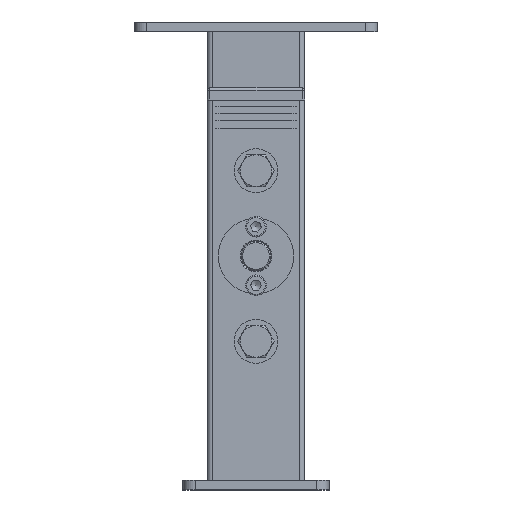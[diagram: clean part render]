
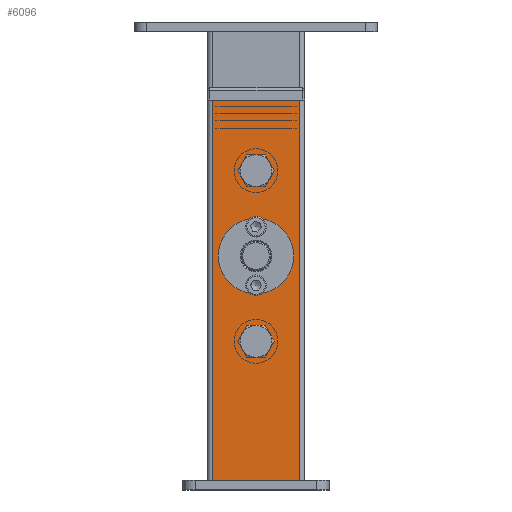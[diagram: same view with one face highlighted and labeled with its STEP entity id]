
A CAD part, left-side view. The second image highlights one B-rep face of the part: STEP entity #6096.
In plain terms, the highlighted planar face has unit normal (-1, 0, 0) as drawn and (1, 0, 0) by its records, which use the part's own axes.
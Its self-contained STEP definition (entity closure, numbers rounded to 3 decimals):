
#468=FACE_BOUND('',#1115,.T.);
#469=FACE_BOUND('',#1116,.T.);
#470=FACE_BOUND('',#1117,.T.);
#471=FACE_BOUND('',#1118,.T.);
#472=FACE_BOUND('',#1119,.T.);
#550=PLANE('',#6879);
#758=FACE_OUTER_BOUND('',#1114,.T.);
#1114=EDGE_LOOP('',(#4361,#4362,#4363,#4364));
#1115=EDGE_LOOP('',(#4365,#4366));
#1116=EDGE_LOOP('',(#4367,#4368));
#1117=EDGE_LOOP('',(#4369));
#1118=EDGE_LOOP('',(#4370));
#1119=EDGE_LOOP('',(#4371));
#1539=LINE('',#9552,#2028);
#1544=LINE('',#9564,#2033);
#1545=LINE('',#9568,#2034);
#1546=LINE('',#9569,#2035);
#2028=VECTOR('',#7678,10.);
#2033=VECTOR('',#7687,10.);
#2034=VECTOR('',#7692,10.);
#2035=VECTOR('',#7693,10.);
#2518=CIRCLE('',#6839,2.067);
#2519=CIRCLE('',#6840,2.067);
#2521=CIRCLE('',#6843,2.067);
#2522=CIRCLE('',#6844,2.067);
#2525=CIRCLE('',#6848,4.25);
#2527=CIRCLE('',#6851,4.25);
#2537=CIRCLE('',#6864,9.);
#2801=VERTEX_POINT('',#9466);
#2802=VERTEX_POINT('',#9467);
#2804=VERTEX_POINT('',#9474);
#2805=VERTEX_POINT('',#9475);
#2808=VERTEX_POINT('',#9484);
#2810=VERTEX_POINT('',#9490);
#2820=VERTEX_POINT('',#9516);
#2833=VERTEX_POINT('',#9549);
#2834=VERTEX_POINT('',#9551);
#2839=VERTEX_POINT('',#9563);
#2840=VERTEX_POINT('',#9567);
#3392=EDGE_CURVE('',#2801,#2802,#2518,.T.);
#3393=EDGE_CURVE('',#2802,#2801,#2519,.T.);
#3396=EDGE_CURVE('',#2804,#2805,#2521,.T.);
#3397=EDGE_CURVE('',#2805,#2804,#2522,.T.);
#3402=EDGE_CURVE('',#2808,#2808,#2525,.T.);
#3405=EDGE_CURVE('',#2810,#2810,#2527,.T.);
#3418=EDGE_CURVE('',#2820,#2820,#2537,.T.);
#3434=EDGE_CURVE('',#2833,#2834,#1539,.T.);
#3440=EDGE_CURVE('',#2834,#2839,#1544,.T.);
#3442=EDGE_CURVE('',#2840,#2833,#1545,.T.);
#3443=EDGE_CURVE('',#2840,#2839,#1546,.T.);
#4361=ORIENTED_EDGE('',*,*,#3440,.F.);
#4362=ORIENTED_EDGE('',*,*,#3434,.F.);
#4363=ORIENTED_EDGE('',*,*,#3442,.F.);
#4364=ORIENTED_EDGE('',*,*,#3443,.T.);
#4365=ORIENTED_EDGE('',*,*,#3392,.T.);
#4366=ORIENTED_EDGE('',*,*,#3393,.T.);
#4367=ORIENTED_EDGE('',*,*,#3396,.T.);
#4368=ORIENTED_EDGE('',*,*,#3397,.T.);
#4369=ORIENTED_EDGE('',*,*,#3402,.T.);
#4370=ORIENTED_EDGE('',*,*,#3405,.T.);
#4371=ORIENTED_EDGE('',*,*,#3418,.T.);
#6096=ADVANCED_FACE('',(#758,#468,#469,#470,#471,#472),#550,.T.);
#6839=AXIS2_PLACEMENT_3D('',#9468,#7589,#7590);
#6840=AXIS2_PLACEMENT_3D('',#9469,#7591,#7592);
#6843=AXIS2_PLACEMENT_3D('',#9476,#7598,#7599);
#6844=AXIS2_PLACEMENT_3D('',#9477,#7600,#7601);
#6848=AXIS2_PLACEMENT_3D('',#9486,#7610,#7611);
#6851=AXIS2_PLACEMENT_3D('',#9492,#7617,#7618);
#6864=AXIS2_PLACEMENT_3D('',#9518,#7646,#7647);
#6879=AXIS2_PLACEMENT_3D('',#9566,#7690,#7691);
#7589=DIRECTION('center_axis',(-1.,0.,0.));
#7590=DIRECTION('ref_axis',(0.,0.,-1.));
#7591=DIRECTION('center_axis',(-1.,0.,0.));
#7592=DIRECTION('ref_axis',(0.,0.,-1.));
#7598=DIRECTION('center_axis',(-1.,0.,0.));
#7599=DIRECTION('ref_axis',(0.,0.,-1.));
#7600=DIRECTION('center_axis',(-1.,0.,0.));
#7601=DIRECTION('ref_axis',(0.,0.,-1.));
#7610=DIRECTION('center_axis',(-1.,0.,0.));
#7611=DIRECTION('ref_axis',(0.,0.,1.));
#7617=DIRECTION('center_axis',(-1.,0.,0.));
#7618=DIRECTION('ref_axis',(0.,0.,1.));
#7646=DIRECTION('center_axis',(-1.,0.,0.));
#7647=DIRECTION('ref_axis',(0.,0.,1.));
#7678=DIRECTION('',(0.,1.,0.));
#7687=DIRECTION('',(0.,0.,-1.));
#7690=DIRECTION('center_axis',(1.,0.,0.));
#7691=DIRECTION('ref_axis',(0.,1.,0.));
#7692=DIRECTION('',(0.,0.,1.));
#7693=DIRECTION('',(0.,1.,0.));
#9466=CARTESIAN_POINT('',(20.,0.,101.933));
#9467=CARTESIAN_POINT('',(20.,0.,106.067));
#9468=CARTESIAN_POINT('Origin',(20.,0.,104.));
#9469=CARTESIAN_POINT('Origin',(20.,0.,104.));
#9474=CARTESIAN_POINT('',(20.,0.,77.933));
#9475=CARTESIAN_POINT('',(20.,0.,82.067));
#9476=CARTESIAN_POINT('Origin',(20.,0.,80.));
#9477=CARTESIAN_POINT('Origin',(20.,0.,80.));
#9484=CARTESIAN_POINT('',(20.,0.,122.75));
#9486=CARTESIAN_POINT('Origin',(20.,0.,127.));
#9490=CARTESIAN_POINT('',(20.,0.,52.75));
#9492=CARTESIAN_POINT('Origin',(20.,0.,57.));
#9516=CARTESIAN_POINT('',(20.,0.,83.));
#9518=CARTESIAN_POINT('Origin',(20.,0.,92.));
#9549=CARTESIAN_POINT('',(20.,-18.,156.));
#9551=CARTESIAN_POINT('',(20.,18.,156.));
#9552=CARTESIAN_POINT('',(20.,-20.,156.));
#9563=CARTESIAN_POINT('',(20.,18.,0.));
#9564=CARTESIAN_POINT('',(20.,18.,0.));
#9566=CARTESIAN_POINT('Origin',(20.,-20.,0.));
#9567=CARTESIAN_POINT('',(20.,-18.,0.));
#9568=CARTESIAN_POINT('',(20.,-18.,0.));
#9569=CARTESIAN_POINT('',(20.,-20.,0.));
